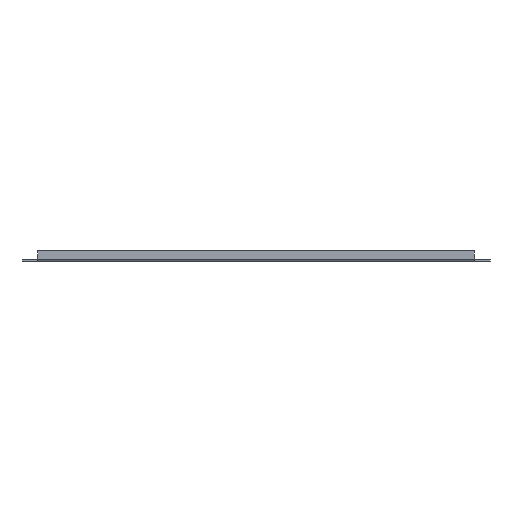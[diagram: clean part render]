
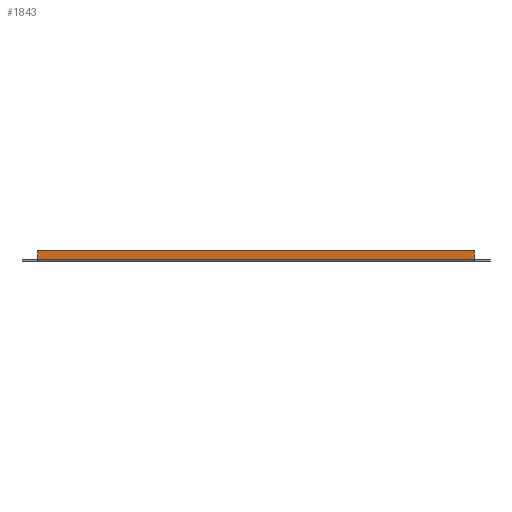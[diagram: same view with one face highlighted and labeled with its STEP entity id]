
A CAD part, left-side view. The second image highlights one B-rep face of the part: STEP entity #1843.
In plain terms, the highlighted planar face has unit normal (-1, 0, 0).
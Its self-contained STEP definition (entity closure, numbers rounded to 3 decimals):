
#1688 = VERTEX_POINT('',#1689);
#1689 = CARTESIAN_POINT('',(-925.,410.,3.1));
#1728 = VERTEX_POINT('',#1729);
#1729 = CARTESIAN_POINT('',(-925.,-410.,3.1));
#1753 = EDGE_CURVE('',#1728,#1688,#1754,.T.);
#1754 = LINE('',#1755,#1756);
#1755 = CARTESIAN_POINT('',(-925.,-410.,3.1));
#1756 = VECTOR('',#1757,1.);
#1757 = DIRECTION('',(0.,1.,0.));
#1795 = VERTEX_POINT('',#1796);
#1796 = CARTESIAN_POINT('',(-925.,-410.,20.));
#1802 = EDGE_CURVE('',#1728,#1795,#1803,.T.);
#1803 = LINE('',#1804,#1805);
#1804 = CARTESIAN_POINT('',(-925.,-410.,20.));
#1805 = VECTOR('',#1806,1.);
#1806 = DIRECTION('',(-0.,0.,1.));
#1817 = EDGE_CURVE('',#1818,#1688,#1820,.T.);
#1818 = VERTEX_POINT('',#1819);
#1819 = CARTESIAN_POINT('',(-925.,410.,20.));
#1820 = LINE('',#1821,#1822);
#1821 = CARTESIAN_POINT('',(-925.,410.,2.5));
#1822 = VECTOR('',#1823,1.);
#1823 = DIRECTION('',(0.,-0.,-1.));
#1843 = ADVANCED_FACE('',(#1844),#1855,.F.);
#1844 = FACE_BOUND('',#1845,.T.);
#1845 = EDGE_LOOP('',(#1846,#1847,#1848,#1854));
#1846 = ORIENTED_EDGE('',*,*,#1753,.F.);
#1847 = ORIENTED_EDGE('',*,*,#1802,.T.);
#1848 = ORIENTED_EDGE('',*,*,#1849,.T.);
#1849 = EDGE_CURVE('',#1795,#1818,#1850,.T.);
#1850 = LINE('',#1851,#1852);
#1851 = CARTESIAN_POINT('',(-925.,410.,20.));
#1852 = VECTOR('',#1853,1.);
#1853 = DIRECTION('',(0.,1.,-0.));
#1854 = ORIENTED_EDGE('',*,*,#1817,.T.);
#1855 = PLANE('',#1856);
#1856 = AXIS2_PLACEMENT_3D('',#1857,#1858,#1859);
#1857 = CARTESIAN_POINT('',(-925.,-410.,2.5));
#1858 = DIRECTION('',(1.,0.,0.));
#1859 = DIRECTION('',(0.,0.,-1.));
